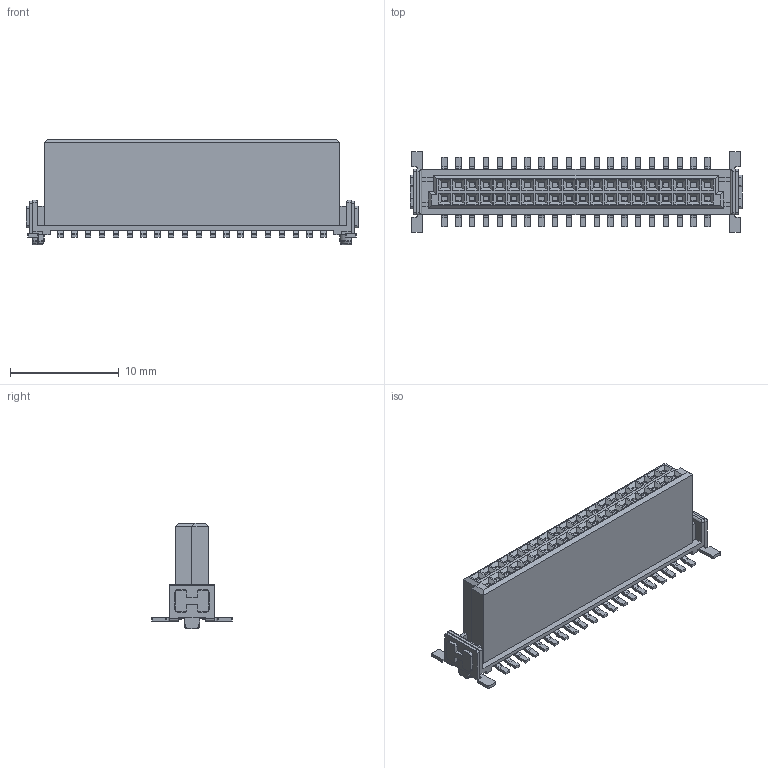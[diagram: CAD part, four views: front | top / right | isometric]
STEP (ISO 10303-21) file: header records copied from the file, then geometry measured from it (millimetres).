
FILE_DESCRIPTION(/* description */ ('STEP AP242','CAx-IF Rec.Pracs.---Representation and Presentation of Product Manufacturing Information (PMI)---4.0---2014-10-13','CAx-IF Rec.Pracs.---3D Tessellated Geometry---0.4---2014-09-14','2;1'),/* implementation_level */ '2;1');
FILE_NAME(/* name */ '62716b474feb4302624372b1',/* time_stamp */ '2022-05-03T17:50:01+00:00',/* author */ (''),/* organization */ (''),/* preprocessor_version */ 'ST-DEVELOPER v18.101',/* originating_system */ ' ',/* authorisation */ ' ');
FILE_SCHEMA (('AP242_MANAGED_MODEL_BASED_3D_ENGINEERING_MIM_LF { 1 0 10303 442 1 1 4 }'));
Length unit declared in the file: metre
Products named in the file (1): 100210480ugm000_c
Bounding box: 30.48 x 7.4 x 9.68 mm (x, y, z)
Volume: 728 mm3; surface area: 1071.3 mm2
Topology: 1 solids, 1 shells, 1252 faces, 3336 edges, 2208 vertices
Faces by surface type: plane 910, cylinder 322, torus 8, sphere 8, cone 4
Entity records: 43362 total; most frequent: CARTESIAN_POINT 7006, ORIENTED_EDGE 6672, DIRECTION 6424, EDGE_CURVE 3336, LINE 2616, VECTOR 2616, VERTEX_POINT 2208, AXIS2_PLACEMENT_3D 1904
